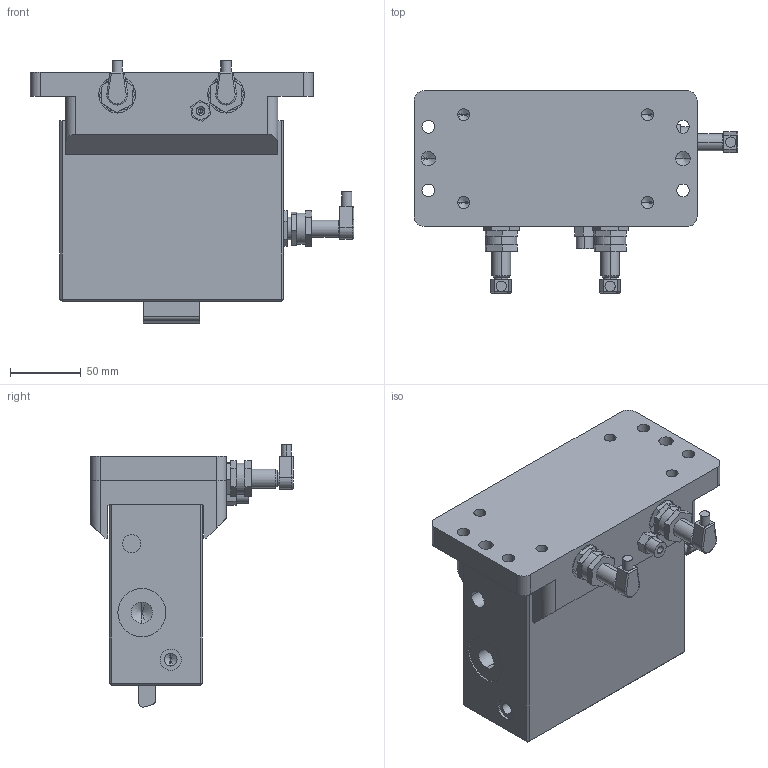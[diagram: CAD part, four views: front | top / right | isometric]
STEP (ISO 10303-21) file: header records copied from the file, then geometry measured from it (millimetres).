
FILE_DESCRIPTION (( 'STEP AP203' ), '1' );
FILE_NAME ('DBSUSR550-15-EW_Anschlag eingefahren oben.STEP', '2013-09-13T10:06:35', ( 'test' ), ( '' ), 'SwSTEP 2.0', 'SolidWorks 2012', '' );
FILE_SCHEMA (( 'CONFIG_CONTROL_DESIGN' ));
Length unit declared in the file: millimetre
Products named in the file (1): DBSUSR550-15-EW_Anschlag eingefahren oben
Bounding box: 228.75 x 143.2 x 185.46 mm (x, y, z)
Volume: 1881179.4 mm3; surface area: 186893.8 mm2
Topology: 3 solids, 6 shells, 425 faces, 1013 edges, 610 vertices
Faces by surface type: plane 253, cylinder 120, cone 44, torus 8
Entity records: 11982 total; most frequent: DIRECTION 2115, CARTESIAN_POINT 2047, ORIENTED_EDGE 1962, EDGE_CURVE 981, AXIS2_PLACEMENT_3D 718, VECTOR 679, LINE 679, VERTEX_POINT 610
